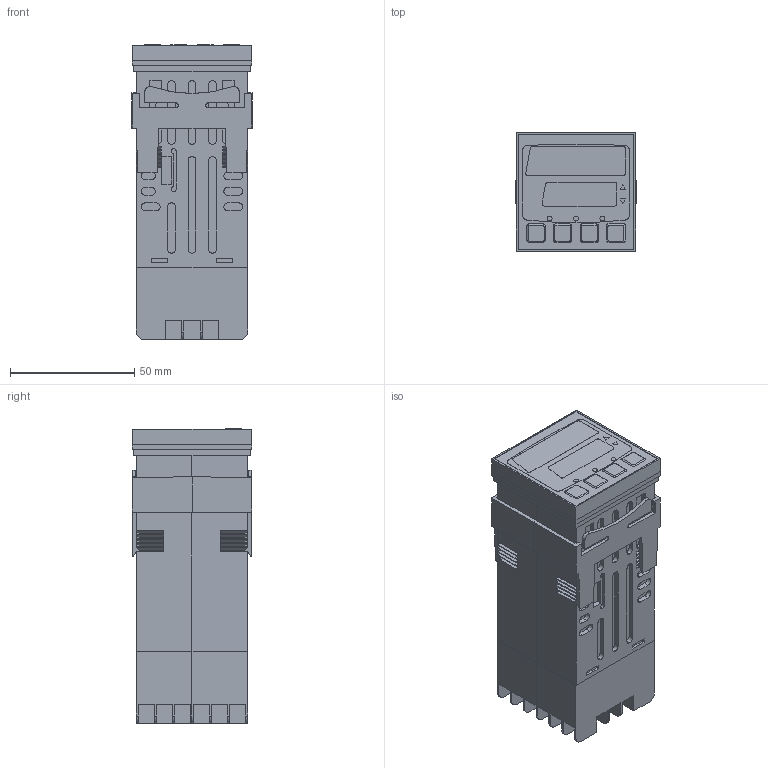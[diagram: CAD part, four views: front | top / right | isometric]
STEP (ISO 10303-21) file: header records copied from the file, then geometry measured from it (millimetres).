
FILE_DESCRIPTION (( 'STEP AP214' ), '1' );
FILE_NAME ('Assembly Defeatured P6X00.STEP', '2016-05-25T10:59:34', ( 'Registered User' ), ( 'Microsoft' ), 'SwSTEP 2.0', 'SolidWorks 2016', '' );
FILE_SCHEMA (( 'AUTOMOTIVE_DESIGN' ));
Length unit declared in the file: millimetre
Products named in the file (6): Overlay P6X00 Defeatured 25-05-16; Clamp P6X00 Defeatured 25-05-16; 4000 Series Gasket Defeatured 25-05-16; P6X00 Defeatured 25-05-16; Group1^P6X00 Defeatured 25-05-16; Assembly Defeatured P6X00
Assembly tree (5 placements, depth 3):
  Assembly Defeatured P6X00
    P6X00 Defeatured 25-05-16
      Group1^P6X00 Defeatured 25-05-16
    4000 Series Gasket Defeatured 25-05-16
    Clamp P6X00 Defeatured 25-05-16
    Overlay P6X00 Defeatured 25-05-16
Bounding box: 48.25 x 48 x 118.5 mm (x, y, z)
Volume: 224565.5 mm3; surface area: 49391.1 mm2
Topology: 4 solids, 4 shells, 1282 faces, 3565 edges, 2345 vertices
Faces by surface type: plane 1072, cylinder 176, bspline 24, cone 10
Entity records: 42245 total; most frequent: CARTESIAN_POINT 9071, ORIENTED_EDGE 7130, DIRECTION 6377, EDGE_CURVE 3565, VECTOR 3123, LINE 3123, VERTEX_POINT 2345, AXIS2_PLACEMENT_3D 1627
